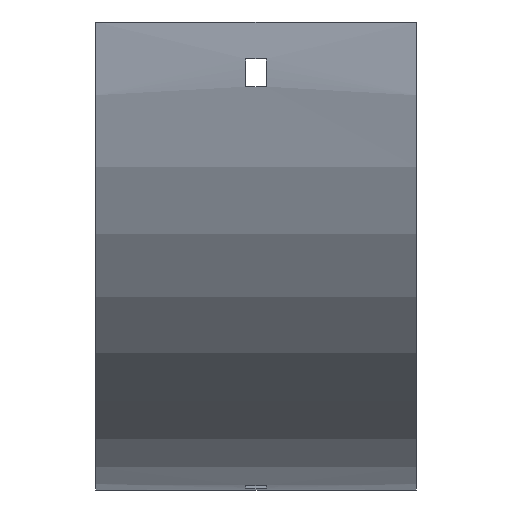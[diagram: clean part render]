
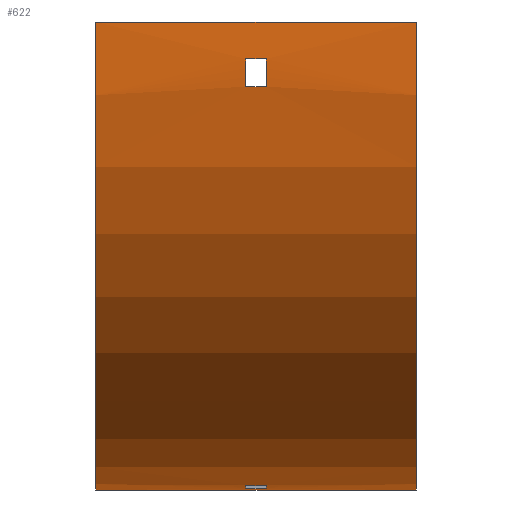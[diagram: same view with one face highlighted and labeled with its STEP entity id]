
A CAD part, front view. The second image highlights one B-rep face of the part: STEP entity #622.
In plain terms, the highlighted cylindrical face has radius 152 mm (diameter 304 mm), a partial arc.
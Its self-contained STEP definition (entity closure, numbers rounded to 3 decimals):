
#3 = VERTEX_POINT ( 'NONE', #32 ) ;
#5 = EDGE_CURVE ( 'NONE', #86, #1080, #1018, .T. ) ;
#8 = DIRECTION ( 'NONE',  ( -1., 0., 0. ) ) ;
#16 = CARTESIAN_POINT ( 'NONE',  ( 3.25, -51.526, -12. ) ) ;
#32 = CARTESIAN_POINT ( 'NONE',  ( -3.25, -51.526, -12. ) ) ;
#34 = CIRCLE ( 'NONE', #636, 152. ) ;
#43 = LINE ( 'NONE', #1003, #93 ) ;
#44 = VERTEX_POINT ( 'NONE', #779 ) ;
#67 = AXIS2_PLACEMENT_3D ( 'NONE', #598, #604, #492 ) ;
#86 = VERTEX_POINT ( 'NONE', #774 ) ;
#90 = VECTOR ( 'NONE', #8, 1000. ) ;
#92 = DIRECTION ( 'NONE',  ( 1., 0., 0. ) ) ;
#93 = VECTOR ( 'NONE', #746, 1000. ) ;
#97 = FACE_BOUND ( 'NONE', #256, .T. ) ;
#104 = FACE_OUTER_BOUND ( 'NONE', #138, .T. ) ;
#121 = CARTESIAN_POINT ( 'NONE',  ( -3.25, 79., -150.542 ) ) ;
#124 = CIRCLE ( 'NONE', #67, 152. ) ;
#127 = ORIENTED_EDGE ( 'NONE', *, *, #206, .F. ) ;
#138 = EDGE_LOOP ( 'NONE', ( #785, #884, #1005, #212 ) ) ;
#146 = EDGE_CURVE ( 'NONE', #967, #323, #366, .T. ) ;
#152 = VECTOR ( 'NONE', #564, 1000. ) ;
#154 = ORIENTED_EDGE ( 'NONE', *, *, #363, .F. ) ;
#165 = CARTESIAN_POINT ( 'NONE',  ( 52., 100., -152. ) ) ;
#173 = LINE ( 'NONE', #250, #1064 ) ;
#175 = VERTEX_POINT ( 'NONE', #16 ) ;
#196 = EDGE_CURVE ( 'NONE', #377, #907, #242, .T. ) ;
#206 = EDGE_CURVE ( 'NONE', #44, #377, #361, .T. ) ;
#207 = CARTESIAN_POINT ( 'NONE',  ( 3.25, 88., -151.526 ) ) ;
#212 = ORIENTED_EDGE ( 'NONE', *, *, #146, .T. ) ;
#233 = ORIENTED_EDGE ( 'NONE', *, *, #5, .T. ) ;
#242 = CIRCLE ( 'NONE', #689, 152. ) ;
#250 = CARTESIAN_POINT ( 'NONE',  ( 52., 100., -152. ) ) ;
#254 = CARTESIAN_POINT ( 'NONE',  ( -52., 100., 0. ) ) ;
#256 = EDGE_LOOP ( 'NONE', ( #233, #487, #1059, #764 ) ) ;
#261 = DIRECTION ( 'NONE',  ( 0., 0., -1. ) ) ;
#267 = CIRCLE ( 'NONE', #862, 152. ) ;
#268 = DIRECTION ( 'NONE',  ( 0., 0., 1. ) ) ;
#308 = DIRECTION ( 'NONE',  ( -1., 0., 0. ) ) ;
#310 = AXIS2_PLACEMENT_3D ( 'NONE', #454, #540, #268 ) ;
#311 = ORIENTED_EDGE ( 'NONE', *, *, #196, .F. ) ;
#323 = VERTEX_POINT ( 'NONE', #493 ) ;
#333 = CARTESIAN_POINT ( 'NONE',  ( -3.25, 100., 0. ) ) ;
#336 = DIRECTION ( 'NONE',  ( 0., 0., -1. ) ) ;
#342 = CARTESIAN_POINT ( 'NONE',  ( 3.25, 100., 0. ) ) ;
#348 = EDGE_CURVE ( 'NONE', #967, #490, #34, .T. ) ;
#356 = CARTESIAN_POINT ( 'NONE',  ( 52., -52., 0. ) ) ;
#359 = EDGE_CURVE ( 'NONE', #3, #175, #844, .T. ) ;
#361 = LINE ( 'NONE', #372, #987 ) ;
#363 = EDGE_CURVE ( 'NONE', #907, #409, #43, .T. ) ;
#366 = LINE ( 'NONE', #356, #90 ) ;
#372 = CARTESIAN_POINT ( 'NONE',  ( 52., 88., -151.526 ) ) ;
#377 = VERTEX_POINT ( 'NONE', #207 ) ;
#381 = DIRECTION ( 'NONE',  ( 0., 0., -1. ) ) ;
#409 = VERTEX_POINT ( 'NONE', #121 ) ;
#439 = CARTESIAN_POINT ( 'NONE',  ( 3.25, 100., 0. ) ) ;
#454 = CARTESIAN_POINT ( 'NONE',  ( 52., 100., 0. ) ) ;
#487 = ORIENTED_EDGE ( 'NONE', *, *, #914, .T. ) ;
#488 = CARTESIAN_POINT ( 'NONE',  ( 52., 100., 0. ) ) ;
#490 = VERTEX_POINT ( 'NONE', #165 ) ;
#492 = DIRECTION ( 'NONE',  ( 0., 0., 1. ) ) ;
#493 = CARTESIAN_POINT ( 'NONE',  ( -52., -52., 0. ) ) ;
#534 = FACE_BOUND ( 'NONE', #738, .T. ) ;
#538 = DIRECTION ( 'NONE',  ( 1., 0., 0. ) ) ;
#540 = DIRECTION ( 'NONE',  ( -1., 0., 0. ) ) ;
#543 = CARTESIAN_POINT ( 'NONE',  ( -3.25, -50.542, -21. ) ) ;
#550 = EDGE_CURVE ( 'NONE', #175, #86, #267, .T. ) ;
#564 = DIRECTION ( 'NONE',  ( 1., 0., 0. ) ) ;
#579 = EDGE_CURVE ( 'NONE', #490, #940, #173, .T. ) ;
#581 = DIRECTION ( 'NONE',  ( 1., 0., 0. ) ) ;
#588 = DIRECTION ( 'NONE',  ( 1., 0., 0. ) ) ;
#598 = CARTESIAN_POINT ( 'NONE',  ( -3.25, 100., 0. ) ) ;
#601 = DIRECTION ( 'NONE',  ( -1., 0., 0. ) ) ;
#604 = DIRECTION ( 'NONE',  ( -1., 0., 0. ) ) ;
#622 = ADVANCED_FACE ( 'NONE', ( #104, #97, #534 ), #1146, .T. ) ;
#631 = CIRCLE ( 'NONE', #796, 152. ) ;
#634 = CARTESIAN_POINT ( 'NONE',  ( 52., -52., 0. ) ) ;
#636 = AXIS2_PLACEMENT_3D ( 'NONE', #488, #848, #381 ) ;
#689 = AXIS2_PLACEMENT_3D ( 'NONE', #439, #976, #912 ) ;
#697 = CARTESIAN_POINT ( 'NONE',  ( 3.25, 79., -150.542 ) ) ;
#738 = EDGE_LOOP ( 'NONE', ( #960, #154, #311, #127 ) ) ;
#746 = DIRECTION ( 'NONE',  ( -1., 0., 0. ) ) ;
#764 = ORIENTED_EDGE ( 'NONE', *, *, #550, .T. ) ;
#774 = CARTESIAN_POINT ( 'NONE',  ( 3.25, -50.542, -21. ) ) ;
#779 = CARTESIAN_POINT ( 'NONE',  ( -3.25, 88., -151.526 ) ) ;
#785 = ORIENTED_EDGE ( 'NONE', *, *, #981, .T. ) ;
#796 = AXIS2_PLACEMENT_3D ( 'NONE', #254, #538, #261 ) ;
#831 = CIRCLE ( 'NONE', #983, 152. ) ;
#844 = LINE ( 'NONE', #1016, #152 ) ;
#848 = DIRECTION ( 'NONE',  ( 1., 0., 0. ) ) ;
#849 = CARTESIAN_POINT ( 'NONE',  ( 52., -50.542, -21. ) ) ;
#858 = EDGE_CURVE ( 'NONE', #409, #44, #831, .T. ) ;
#862 = AXIS2_PLACEMENT_3D ( 'NONE', #342, #588, #336 ) ;
#884 = ORIENTED_EDGE ( 'NONE', *, *, #579, .F. ) ;
#907 = VERTEX_POINT ( 'NONE', #697 ) ;
#912 = DIRECTION ( 'NONE',  ( 0., 0., 1. ) ) ;
#914 = EDGE_CURVE ( 'NONE', #1080, #3, #124, .T. ) ;
#933 = VECTOR ( 'NONE', #308, 1000. ) ;
#940 = VERTEX_POINT ( 'NONE', #1055 ) ;
#960 = ORIENTED_EDGE ( 'NONE', *, *, #858, .F. ) ;
#967 = VERTEX_POINT ( 'NONE', #634 ) ;
#976 = DIRECTION ( 'NONE',  ( -1., 0., 0. ) ) ;
#981 = EDGE_CURVE ( 'NONE', #323, #940, #631, .T. ) ;
#983 = AXIS2_PLACEMENT_3D ( 'NONE', #333, #581, #1116 ) ;
#987 = VECTOR ( 'NONE', #92, 1000. ) ;
#1003 = CARTESIAN_POINT ( 'NONE',  ( 52., 79., -150.542 ) ) ;
#1005 = ORIENTED_EDGE ( 'NONE', *, *, #348, .F. ) ;
#1016 = CARTESIAN_POINT ( 'NONE',  ( 52., -51.526, -12. ) ) ;
#1018 = LINE ( 'NONE', #849, #933 ) ;
#1055 = CARTESIAN_POINT ( 'NONE',  ( -52., 100., -152. ) ) ;
#1059 = ORIENTED_EDGE ( 'NONE', *, *, #359, .T. ) ;
#1064 = VECTOR ( 'NONE', #601, 1000. ) ;
#1080 = VERTEX_POINT ( 'NONE', #543 ) ;
#1116 = DIRECTION ( 'NONE',  ( 0., 1., 0. ) ) ;
#1146 = CYLINDRICAL_SURFACE ( 'NONE', #310, 152. ) ;
